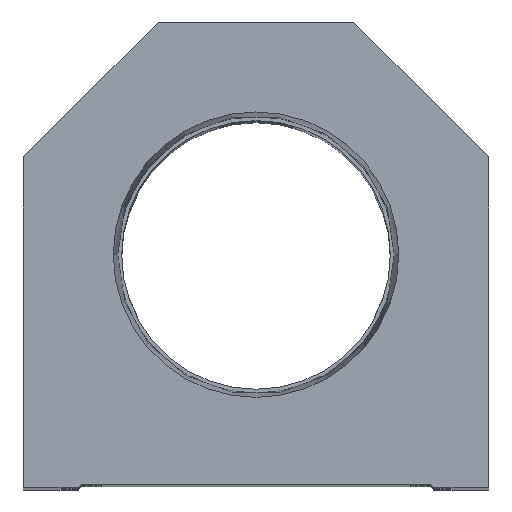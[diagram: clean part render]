
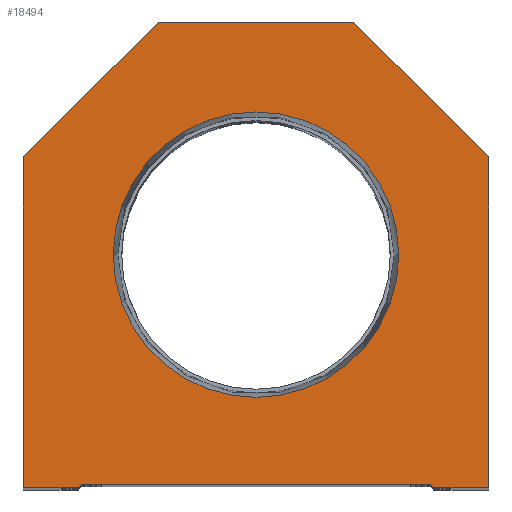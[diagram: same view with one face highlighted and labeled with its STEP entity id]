
A CAD part, top view. The second image highlights one B-rep face of the part: STEP entity #18494.
In plain terms, the highlighted planar face has unit normal (0, 0, 1).
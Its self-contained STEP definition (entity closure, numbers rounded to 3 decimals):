
#37 = EDGE_LOOP ( 'NONE', ( #9398, #5148 ) ) ;
#118 = EDGE_CURVE ( 'NONE', #2059, #15313, #7430, .T. ) ;
#124 = VERTEX_POINT ( 'NONE', #12025 ) ;
#289 = FACE_BOUND ( 'NONE', #37, .T. ) ;
#374 = AXIS2_PLACEMENT_3D ( 'NONE', #16163, #3079, #16439 ) ;
#377 = DIRECTION ( 'NONE',  ( 1., 0., 0. ) ) ;
#1117 = ORIENTED_EDGE ( 'NONE', *, *, #2873, .T. ) ;
#1154 = CARTESIAN_POINT ( 'NONE',  ( -28.6, 0., 0. ) ) ;
#1190 = VERTEX_POINT ( 'NONE', #10263 ) ;
#1378 = EDGE_CURVE ( 'NONE', #8335, #10111, #8009, .T. ) ;
#1441 = LINE ( 'NONE', #1154, #18637 ) ;
#1485 = CARTESIAN_POINT ( 'NONE',  ( 16., 76.2, 0. ) ) ;
#1812 = VECTOR ( 'NONE', #13279, 1000. ) ;
#1867 = LINE ( 'NONE', #12012, #6169 ) ;
#2059 = VERTEX_POINT ( 'NONE', #11189 ) ;
#2347 = LINE ( 'NONE', #2448, #11325 ) ;
#2448 = CARTESIAN_POINT ( 'NONE',  ( -38.1, 54.1, 0. ) ) ;
#2474 = AXIS2_PLACEMENT_3D ( 'NONE', #8905, #12149, #377 ) ;
#2584 = DIRECTION ( 'NONE',  ( 1., 0., 0. ) ) ;
#2873 = EDGE_CURVE ( 'NONE', #12423, #1190, #5316, .T. ) ;
#2943 = EDGE_CURVE ( 'NONE', #15313, #14123, #18428, .T. ) ;
#2950 = LINE ( 'NONE', #1485, #14082 ) ;
#3079 = DIRECTION ( 'NONE',  ( 0., 0., 1. ) ) ;
#3092 = DIRECTION ( 'NONE',  ( 1., 0., 0. ) ) ;
#3174 = VECTOR ( 'NONE', #15431, 1000. ) ;
#3187 = DIRECTION ( 'NONE',  ( 0., 0., 1. ) ) ;
#3310 = VECTOR ( 'NONE', #13437, 1000. ) ;
#3422 = ORIENTED_EDGE ( 'NONE', *, *, #14917, .T. ) ;
#3470 = CARTESIAN_POINT ( 'NONE',  ( 38.1, 0., 0. ) ) ;
#3711 = CARTESIAN_POINT ( 'NONE',  ( -23.374, 38.1, 0. ) ) ;
#3738 = AXIS2_PLACEMENT_3D ( 'NONE', #13523, #3187, #3092 ) ;
#4087 = ORIENTED_EDGE ( 'NONE', *, *, #6020, .T. ) ;
#4112 = VERTEX_POINT ( 'NONE', #14206 ) ;
#4230 = DIRECTION ( 'NONE',  ( 0.707, -0.707, 0. ) ) ;
#4668 = CARTESIAN_POINT ( 'NONE',  ( -16., 76.2, 0. ) ) ;
#4792 = PLANE ( 'NONE',  #3738 ) ;
#5148 = ORIENTED_EDGE ( 'NONE', *, *, #1378, .F. ) ;
#5316 = LINE ( 'NONE', #5606, #16738 ) ;
#5480 = EDGE_CURVE ( 'NONE', #10627, #124, #1867, .T. ) ;
#5606 = CARTESIAN_POINT ( 'NONE',  ( 38.1, 54.1, 0. ) ) ;
#5851 = DIRECTION ( 'NONE',  ( 1., 0., 0. ) ) ;
#6020 = EDGE_CURVE ( 'NONE', #14123, #4112, #14473, .T. ) ;
#6095 = CARTESIAN_POINT ( 'NONE',  ( -28.6, 0.5, 0. ) ) ;
#6169 = VECTOR ( 'NONE', #17828, 1000. ) ;
#6518 = CARTESIAN_POINT ( 'NONE',  ( -38.1, 54.1, 0. ) ) ;
#6593 = EDGE_CURVE ( 'NONE', #14511, #10627, #2347, .T. ) ;
#7411 = ORIENTED_EDGE ( 'NONE', *, *, #118, .T. ) ;
#7430 = LINE ( 'NONE', #13471, #1812 ) ;
#7771 = CARTESIAN_POINT ( 'NONE',  ( 38.1, 0., 0. ) ) ;
#7964 = CARTESIAN_POINT ( 'NONE',  ( 28.6, 0., 0. ) ) ;
#8009 = CIRCLE ( 'NONE', #374, 23.374 ) ;
#8335 = VERTEX_POINT ( 'NONE', #3711 ) ;
#8905 = CARTESIAN_POINT ( 'NONE',  ( 0., 38.1, 0. ) ) ;
#9398 = ORIENTED_EDGE ( 'NONE', *, *, #16922, .F. ) ;
#9431 = VECTOR ( 'NONE', #2584, 1000. ) ;
#9468 = EDGE_LOOP ( 'NONE', ( #16966, #7411, #17257, #4087, #3422, #9892, #1117, #12004, #16112, #15367 ) ) ;
#9892 = ORIENTED_EDGE ( 'NONE', *, *, #10242, .T. ) ;
#9898 = CARTESIAN_POINT ( 'NONE',  ( 28.6, 0.5, 0. ) ) ;
#10111 = VERTEX_POINT ( 'NONE', #13147 ) ;
#10242 = EDGE_CURVE ( 'NONE', #15202, #12423, #14779, .T. ) ;
#10263 = CARTESIAN_POINT ( 'NONE',  ( 16., 76.2, 0. ) ) ;
#10627 = VERTEX_POINT ( 'NONE', #6518 ) ;
#11000 = CARTESIAN_POINT ( 'NONE',  ( 38.1, 54.1, 0. ) ) ;
#11189 = CARTESIAN_POINT ( 'NONE',  ( -29.1, 0., 0. ) ) ;
#11325 = VECTOR ( 'NONE', #17158, 1000. ) ;
#11876 = EDGE_CURVE ( 'NONE', #1190, #14511, #2950, .T. ) ;
#12004 = ORIENTED_EDGE ( 'NONE', *, *, #11876, .T. ) ;
#12012 = CARTESIAN_POINT ( 'NONE',  ( -38.1, 0., 0. ) ) ;
#12025 = CARTESIAN_POINT ( 'NONE',  ( -38.1, 0., 0. ) ) ;
#12149 = DIRECTION ( 'NONE',  ( 0., 0., 1. ) ) ;
#12423 = VERTEX_POINT ( 'NONE', #11000 ) ;
#12691 = DIRECTION ( 'NONE',  ( -0.707, 0.707, 0. ) ) ;
#13120 = EDGE_CURVE ( 'NONE', #124, #2059, #1441, .T. ) ;
#13147 = CARTESIAN_POINT ( 'NONE',  ( 23.374, 38.1, 0. ) ) ;
#13279 = DIRECTION ( 'NONE',  ( 0.707, 0.707, 0. ) ) ;
#13437 = DIRECTION ( 'NONE',  ( 0., 1., 0. ) ) ;
#13471 = CARTESIAN_POINT ( 'NONE',  ( -14.55, 14.55, 0. ) ) ;
#13523 = CARTESIAN_POINT ( 'NONE',  ( 0., 0., 0. ) ) ;
#14082 = VECTOR ( 'NONE', #18604, 1000. ) ;
#14123 = VERTEX_POINT ( 'NONE', #9898 ) ;
#14206 = CARTESIAN_POINT ( 'NONE',  ( 29.1, 0., 0. ) ) ;
#14473 = LINE ( 'NONE', #18853, #16006 ) ;
#14511 = VERTEX_POINT ( 'NONE', #4668 ) ;
#14779 = LINE ( 'NONE', #7771, #3310 ) ;
#14917 = EDGE_CURVE ( 'NONE', #4112, #15202, #15242, .T. ) ;
#14994 = CIRCLE ( 'NONE', #2474, 23.374 ) ;
#15202 = VERTEX_POINT ( 'NONE', #3470 ) ;
#15242 = LINE ( 'NONE', #7964, #3174 ) ;
#15313 = VERTEX_POINT ( 'NONE', #6095 ) ;
#15367 = ORIENTED_EDGE ( 'NONE', *, *, #5480, .T. ) ;
#15431 = DIRECTION ( 'NONE',  ( 1., 0., 0. ) ) ;
#15665 = CARTESIAN_POINT ( 'NONE',  ( -28.6, 0.5, 0. ) ) ;
#16006 = VECTOR ( 'NONE', #4230, 1000. ) ;
#16112 = ORIENTED_EDGE ( 'NONE', *, *, #6593, .T. ) ;
#16163 = CARTESIAN_POINT ( 'NONE',  ( 0., 38.1, 0. ) ) ;
#16439 = DIRECTION ( 'NONE',  ( 1., 0., 0. ) ) ;
#16738 = VECTOR ( 'NONE', #12691, 1000. ) ;
#16922 = EDGE_CURVE ( 'NONE', #10111, #8335, #14994, .T. ) ;
#16966 = ORIENTED_EDGE ( 'NONE', *, *, #13120, .T. ) ;
#17158 = DIRECTION ( 'NONE',  ( -0.707, -0.707, 0. ) ) ;
#17257 = ORIENTED_EDGE ( 'NONE', *, *, #2943, .T. ) ;
#17828 = DIRECTION ( 'NONE',  ( 0., -1., 0. ) ) ;
#18428 = LINE ( 'NONE', #15665, #9431 ) ;
#18494 = ADVANCED_FACE ( 'NONE', ( #289, #18683 ), #4792, .T. ) ;
#18604 = DIRECTION ( 'NONE',  ( -1., 0., 0. ) ) ;
#18637 = VECTOR ( 'NONE', #5851, 1000. ) ;
#18683 = FACE_OUTER_BOUND ( 'NONE', #9468, .T. ) ;
#18853 = CARTESIAN_POINT ( 'NONE',  ( 14.55, 14.55, 0. ) ) ;
